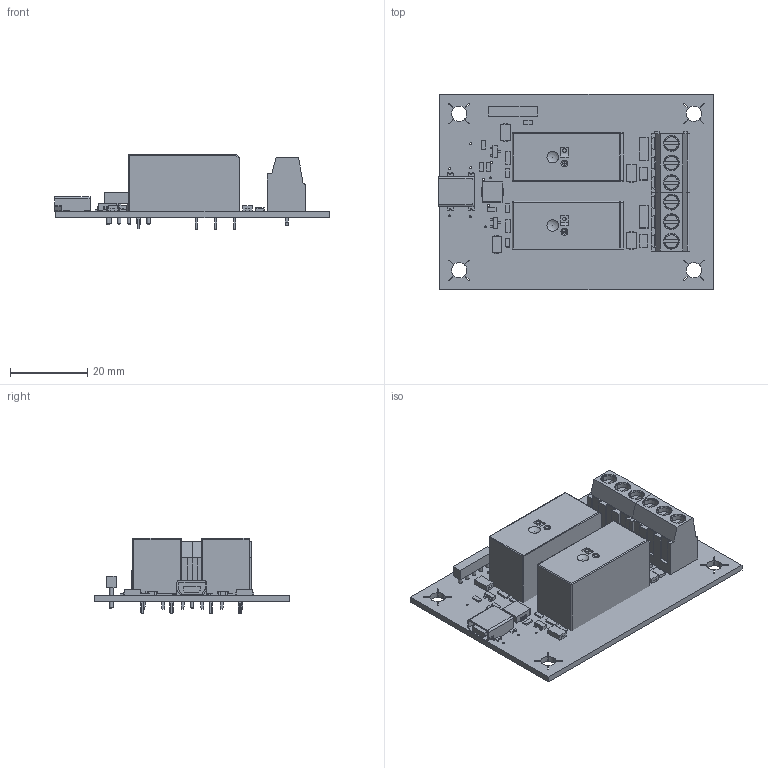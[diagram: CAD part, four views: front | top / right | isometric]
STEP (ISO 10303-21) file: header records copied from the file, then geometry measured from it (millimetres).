
FILE_DESCRIPTION(('PCB Model'),'2;1');
FILE_NAME('Z:\Proteus8\Relay USB\usb-rly02-sn.STEP', '2025-06-26T08:44:47',('Chris'),('Unspecified'), 'Open CASCADE STEP processor 7.6','Proteus','Unknown');
FILE_SCHEMA(('CONFIG_CONTROL_DESIGN','SHAPE_APPEARANCE_LAYER_MIM'));
Length unit declared in the file: millimetre
Products named in the file (89): Proteus PCB Model; Board; PL1; Package; Body_1; PL2; RL1; RL2; C3; Pin_1; Pin_2; V1; R5; IC1; Pin_3; Pin_4; Pin_5; Pin_6; Pin_7; Pin_8; Pin_9; Pin_10; Pin_11; Pin_12; Pin_13; Pin_14; Pin_15; Pin_16; Pin_17; Pin_18; V2; R6; C6; PL4; LED1; LED3; R1; R3; Q1; Q2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
Assembly tree (104 placements, depth 4):
  Proteus PCB Model
    Board
    PL1
      Package
        Body_1
    PL2
      Package
        Body_1
    RL1
      Package
        Body_1
    RL2
      Package
        Body_1
    C3
      Package
        Body_1
        Pin_1
        Pin_2
    V1
      Package
        Body_1
        Pin_1
        Pin_2
    R5
      Package
        Body_1
        Pin_1
        Pin_2
    IC1
      Package
        Body_1
        Pin_1
        Pin_2
        Pin_3
        Pin_4
        Pin_5
        Pin_6
        Pin_7
        Pin_8
        Pin_9
        Pin_10
        Pin_11
        Pin_12
        Pin_13
        Pin_14
        Pin_15
        Pin_16
        Pin_17
        Pin_18
    V2
      Package
        Body_1
        Pin_1
        Pin_2
    R6
      Package
        Body_1
        Pin_1
        Pin_2
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Bounding box: 71.36 x 50.8 x 19.6 mm (x, y, z)
Volume: 20433.2 mm3; surface area: 17684.8 mm2
Topology: 93 solids, 133 shells, 2226 faces, 5618 edges, 3670 vertices
Faces by surface type: plane 1606, cylinder 468, torus 58, cone 32, sphere 32, bspline 24, extrusion 6
Full cylindrical faces by diameter (mm): 0.35 x2, 0.508 x11, 0.9 x2, 0.916 x6, 1.016 x8, 1.27 x16, 1.524 x6, 1.8 x2, 2 x2
Entity records: 44038 total; most frequent: CARTESIAN_POINT 8037, DIRECTION 6543, ORIENTED_EDGE 6452, EDGE_CURVE 3226, VECTOR 2447, LINE 2441, VERTEX_POINT 2123, AXIS2_PLACEMENT_3D 2048
